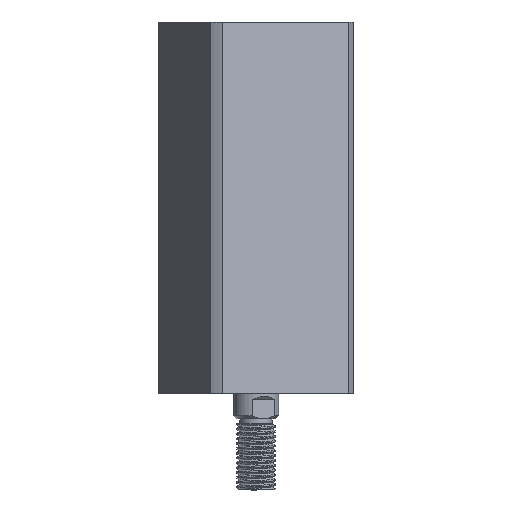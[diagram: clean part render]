
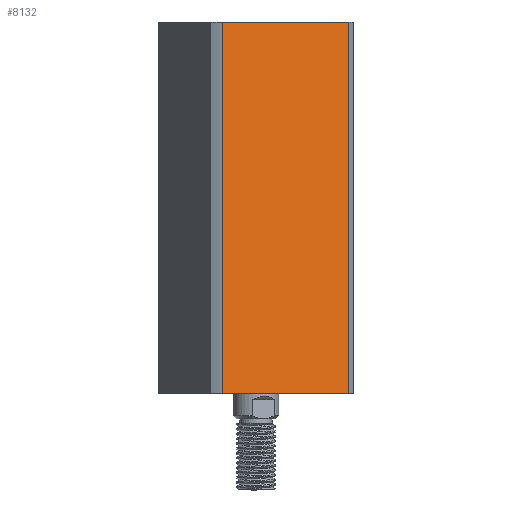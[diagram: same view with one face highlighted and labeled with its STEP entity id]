
A CAD part, left-side view. The second image highlights one B-rep face of the part: STEP entity #8132.
In plain terms, the highlighted planar face has unit normal (-0.924, -0.383, 0) as drawn and (1, 0, 0) by its records, which use the part's own axes.
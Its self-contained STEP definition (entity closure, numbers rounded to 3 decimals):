
#135 = DIRECTION ( 'NONE',  ( 0., -1., 0. ) ) ;
#210 = ORIENTED_EDGE ( 'NONE', *, *, #10052, .T. ) ;
#469 = ORIENTED_EDGE ( 'NONE', *, *, #7468, .F. ) ;
#953 = DIRECTION ( 'NONE',  ( 0., 0., -1. ) ) ;
#956 = LINE ( 'NONE', #1820, #9345 ) ;
#1820 = CARTESIAN_POINT ( 'NONE',  ( 24., 21.166, -292. ) ) ;
#1871 = CARTESIAN_POINT ( 'NONE',  ( 24., 24., 0. ) ) ;
#1961 = EDGE_CURVE ( 'NONE', #3330, #2714, #4472, .T. ) ;
#2273 = VECTOR ( 'NONE', #4010, 1000. ) ;
#2304 = EDGE_CURVE ( 'NONE', #2714, #10636, #956, .T. ) ;
#2713 = DIRECTION ( 'NONE',  ( 0., 1., 0. ) ) ;
#2714 = VERTEX_POINT ( 'NONE', #10348 ) ;
#3113 = AXIS2_PLACEMENT_3D ( 'NONE', #9296, #5135, #135 ) ;
#3180 = CARTESIAN_POINT ( 'NONE',  ( 24., 24., 115. ) ) ;
#3317 = CARTESIAN_POINT ( 'NONE',  ( 24., -21.166, -292. ) ) ;
#3330 = VERTEX_POINT ( 'NONE', #9232 ) ;
#4010 = DIRECTION ( 'NONE',  ( 0., 1., 0. ) ) ;
#4102 = FACE_OUTER_BOUND ( 'NONE', #6437, .T. ) ;
#4161 = DIRECTION ( 'NONE',  ( 0., 0., 1. ) ) ;
#4472 = LINE ( 'NONE', #3180, #2273 ) ;
#4903 = ORIENTED_EDGE ( 'NONE', *, *, #2304, .F. ) ;
#5135 = DIRECTION ( 'NONE',  ( -1., 0., 0. ) ) ;
#5651 = VECTOR ( 'NONE', #2713, 1000. ) ;
#6171 = ORIENTED_EDGE ( 'NONE', *, *, #1961, .F. ) ;
#6180 = CARTESIAN_POINT ( 'NONE',  ( 24., -21.166, 0. ) ) ;
#6437 = EDGE_LOOP ( 'NONE', ( #469, #210, #4903, #6171 ) ) ;
#7164 = VERTEX_POINT ( 'NONE', #6180 ) ;
#7468 = EDGE_CURVE ( 'NONE', #7164, #3330, #9243, .T. ) ;
#7909 = LINE ( 'NONE', #1871, #5651 ) ;
#8132 = ADVANCED_FACE ( 'NONE', ( #4102 ), #10150, .F. ) ;
#8979 = VECTOR ( 'NONE', #4161, 1000. ) ;
#9174 = CARTESIAN_POINT ( 'NONE',  ( 24., 21.166, 0. ) ) ;
#9232 = CARTESIAN_POINT ( 'NONE',  ( 24., -21.166, 115. ) ) ;
#9243 = LINE ( 'NONE', #3317, #8979 ) ;
#9296 = CARTESIAN_POINT ( 'NONE',  ( 24., 24., 115. ) ) ;
#9345 = VECTOR ( 'NONE', #953, 1000. ) ;
#10052 = EDGE_CURVE ( 'NONE', #7164, #10636, #7909, .T. ) ;
#10150 = PLANE ( 'NONE',  #3113 ) ;
#10348 = CARTESIAN_POINT ( 'NONE',  ( 24., 21.166, 115. ) ) ;
#10636 = VERTEX_POINT ( 'NONE', #9174 ) ;
